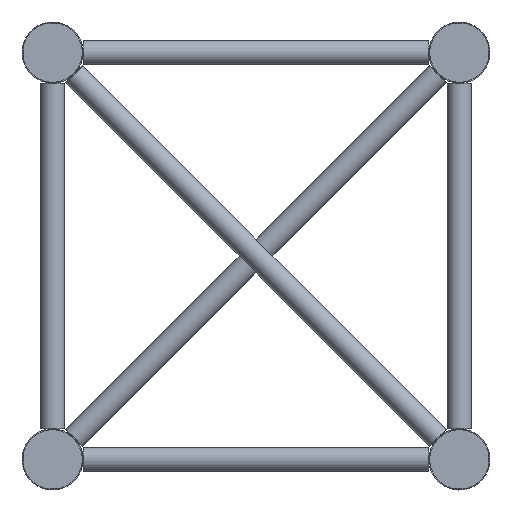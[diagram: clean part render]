
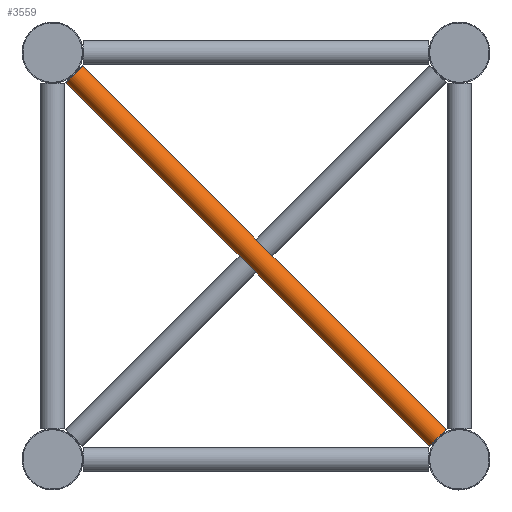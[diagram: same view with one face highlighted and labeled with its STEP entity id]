
A CAD part, left-side view. The second image highlights one B-rep face of the part: STEP entity #3559.
In plain terms, the highlighted cylindrical face has radius 10 mm (diameter 20 mm), a full revolution.
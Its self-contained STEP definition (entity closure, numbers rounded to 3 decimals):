
#537=FACE_BOUND('',#992,.T.);
#699=CYLINDRICAL_SURFACE('',#3796,10.);
#760=FACE_OUTER_BOUND('',#991,.T.);
#991=EDGE_LOOP('',(#2227));
#992=EDGE_LOOP('',(#2228));
#1380=CIRCLE('',#3795,10.);
#1381=CIRCLE('',#3797,10.);
#1448=VERTEX_POINT('',#5158);
#1449=VERTEX_POINT('',#5161);
#1772=EDGE_CURVE('',#1448,#1448,#1380,.T.);
#1773=EDGE_CURVE('',#1449,#1449,#1381,.T.);
#2227=ORIENTED_EDGE('',*,*,#1772,.T.);
#2228=ORIENTED_EDGE('',*,*,#1773,.T.);
#3559=ADVANCED_FACE('',(#760,#537),#699,.T.);
#3795=AXIS2_PLACEMENT_3D('',#5159,#4213,#4214);
#3796=AXIS2_PLACEMENT_3D('',#5160,#4215,#4216);
#3797=AXIS2_PLACEMENT_3D('',#5162,#4217,#4218);
#4213=DIRECTION('center_axis',(0.,0.707,
0.707));
#4214=DIRECTION('ref_axis',(0.,0.707,-0.707));
#4215=DIRECTION('center_axis',(0.,0.707,
0.707));
#4216=DIRECTION('ref_axis',(0.,0.707,-0.707));
#4217=DIRECTION('center_axis',(0.,-0.707,
-0.707));
#4218=DIRECTION('ref_axis',(0.,0.707,-0.707));
#5158=CARTESIAN_POINT('',(60.,10.967,-313.891));
#5159=CARTESIAN_POINT('Origin',(60.,18.038,-320.962));
#5160=CARTESIAN_POINT('Origin',(60.,169.5,-169.5));
#5161=CARTESIAN_POINT('',(60.,313.891,-10.967));
#5162=CARTESIAN_POINT('Origin',(60.,320.962,-18.038));
